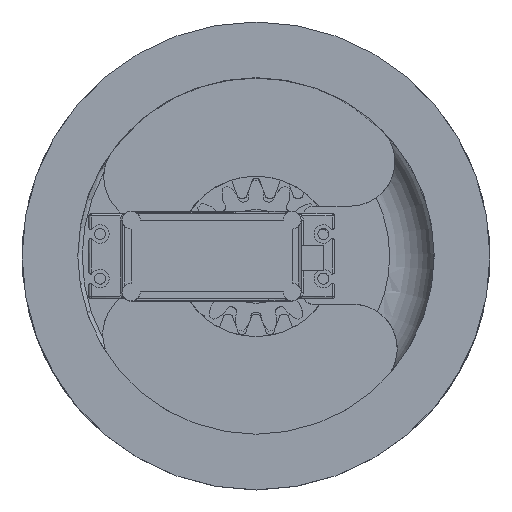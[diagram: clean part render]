
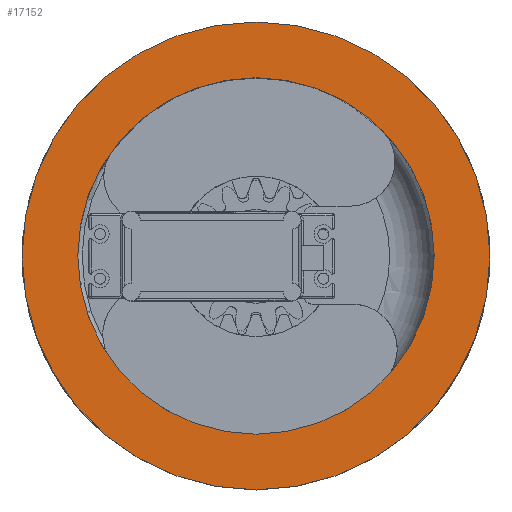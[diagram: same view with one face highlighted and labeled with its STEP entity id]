
A CAD part, top view. The second image highlights one B-rep face of the part: STEP entity #17152.
In plain terms, the highlighted planar face has unit normal (0, 0, 1) as drawn and (0, -1, 0) by its records, which use the part's own axes.
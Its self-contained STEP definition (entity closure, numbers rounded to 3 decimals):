
#3997=FACE_BOUND('',#5865,.T.);
#4884=FACE_OUTER_BOUND('',#5864,.T.);
#5864=EDGE_LOOP('',(#15728));
#5865=EDGE_LOOP('',(#15729));
#6640=CIRCLE('',#19037,40.);
#6686=CIRCLE('',#19118,52.5);
#8243=VERTEX_POINT('',#36375);
#8297=VERTEX_POINT('',#36627);
#10693=EDGE_CURVE('',#8243,#8243,#6640,.T.);
#10782=EDGE_CURVE('',#8297,#8297,#6686,.T.);
#15728=ORIENTED_EDGE('',*,*,#10782,.T.);
#15729=ORIENTED_EDGE('',*,*,#10693,.T.);
#16251=PLANE('',#19119);
#17152=ADVANCED_FACE('',(#4884,#3997),#16251,.T.);
#19037=AXIS2_PLACEMENT_3D('',#36376,#23690,#23691);
#19118=AXIS2_PLACEMENT_3D('',#36628,#23889,#23890);
#19119=AXIS2_PLACEMENT_3D('',#36630,#23892,#23893);
#23690=DIRECTION('center_axis',(0.,1.,0.));
#23691=DIRECTION('ref_axis',(1.,0.,0.));
#23889=DIRECTION('center_axis',(0.,-1.,0.));
#23890=DIRECTION('ref_axis',(1.,0.,0.));
#23892=DIRECTION('center_axis',(0.,-1.,0.));
#23893=DIRECTION('ref_axis',(0.,0.,-1.));
#36375=CARTESIAN_POINT('',(-40.,0.,0.));
#36376=CARTESIAN_POINT('Origin',(0.,0.,0.));
#36627=CARTESIAN_POINT('',(-52.5,0.,0.));
#36628=CARTESIAN_POINT('Origin',(0.,0.,
0.));
#36630=CARTESIAN_POINT('Origin',(0.,0.,0.));
